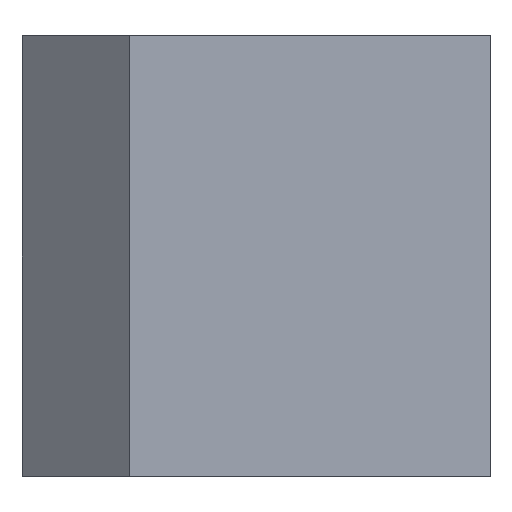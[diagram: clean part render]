
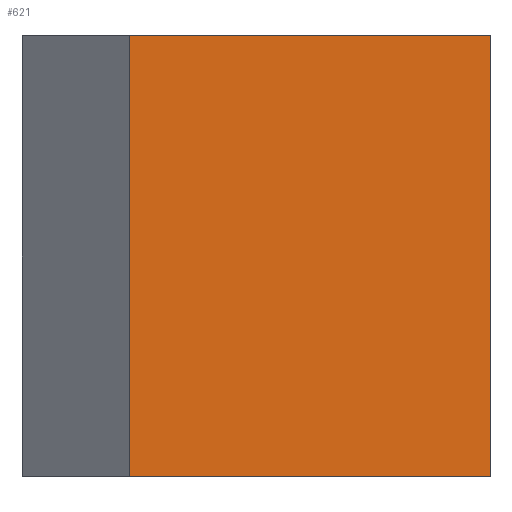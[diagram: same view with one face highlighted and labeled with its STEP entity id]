
A CAD part, left-side view. The second image highlights one B-rep face of the part: STEP entity #621.
In plain terms, the highlighted planar face has unit normal (-0.656, -0.755, 0).
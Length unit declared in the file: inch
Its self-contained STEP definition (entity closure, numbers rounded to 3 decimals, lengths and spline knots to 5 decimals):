
#1 = DIRECTION ( 'NONE',  ( -0.656, -0.755, 0. ) ) ;
#67 = CARTESIAN_POINT ( 'NONE',  ( -6.03653, 0., -1. ) ) ;
#121 = VERTEX_POINT ( 'NONE', #737 ) ;
#165 = CARTESIAN_POINT ( 'NONE',  ( -6.97866, 0.81898, -1. ) ) ;
#191 = ORIENTED_EDGE ( 'NONE', *, *, #471, .F. ) ;
#224 = DIRECTION ( 'NONE',  ( 0., 0., 1. ) ) ;
#246 = VERTEX_POINT ( 'NONE', #165 ) ;
#252 = AXIS2_PLACEMENT_3D ( 'NONE', #764, #1, #554 ) ;
#283 = LINE ( 'NONE', #521, #356 ) ;
#284 = ORIENTED_EDGE ( 'NONE', *, *, #609, .F. ) ;
#294 = VECTOR ( 'NONE', #429, 39.37008 ) ;
#299 = EDGE_CURVE ( 'NONE', #246, #598, #599, .T. ) ;
#315 = DIRECTION ( 'NONE',  ( 0., 0., 1. ) ) ;
#339 = CARTESIAN_POINT ( 'NONE',  ( -6.03653, 0., -1. ) ) ;
#341 = VECTOR ( 'NONE', #315, 39.37008 ) ;
#356 = VECTOR ( 'NONE', #759, 39.37008 ) ;
#363 = CARTESIAN_POINT ( 'NONE',  ( -6.03653, 0., -1. ) ) ;
#371 = ORIENTED_EDGE ( 'NONE', *, *, #389, .T. ) ;
#389 = EDGE_CURVE ( 'NONE', #598, #777, #657, .T. ) ;
#410 = LINE ( 'NONE', #703, #559 ) ;
#429 = DIRECTION ( 'NONE',  ( 0.755, -0.656, 0. ) ) ;
#471 = EDGE_CURVE ( 'NONE', #246, #121, #410, .T. ) ;
#521 = CARTESIAN_POINT ( 'NONE',  ( -6.03653, 0., 0. ) ) ;
#525 = PLANE ( 'NONE',  #252 ) ;
#554 = DIRECTION ( 'NONE',  ( 0.755, -0.656, 0. ) ) ;
#559 = VECTOR ( 'NONE', #224, 39.37008 ) ;
#598 = VERTEX_POINT ( 'NONE', #339 ) ;
#599 = LINE ( 'NONE', #67, #294 ) ;
#609 = EDGE_CURVE ( 'NONE', #121, #777, #283, .T. ) ;
#621 = ADVANCED_FACE ( 'NONE', ( #696 ), #525, .T. ) ;
#657 = LINE ( 'NONE', #363, #341 ) ;
#686 = ORIENTED_EDGE ( 'NONE', *, *, #299, .T. ) ;
#696 = FACE_OUTER_BOUND ( 'NONE', #755, .T. ) ;
#703 = CARTESIAN_POINT ( 'NONE',  ( -6.97866, 0.81898, -1. ) ) ;
#737 = CARTESIAN_POINT ( 'NONE',  ( -6.97866, 0.81898, 0. ) ) ;
#738 = CARTESIAN_POINT ( 'NONE',  ( -6.03653, 0., 0. ) ) ;
#755 = EDGE_LOOP ( 'NONE', ( #284, #191, #686, #371 ) ) ;
#759 = DIRECTION ( 'NONE',  ( 0.755, -0.656, 0. ) ) ;
#764 = CARTESIAN_POINT ( 'NONE',  ( -6.03653, 0., -1. ) ) ;
#777 = VERTEX_POINT ( 'NONE', #738 ) ;
